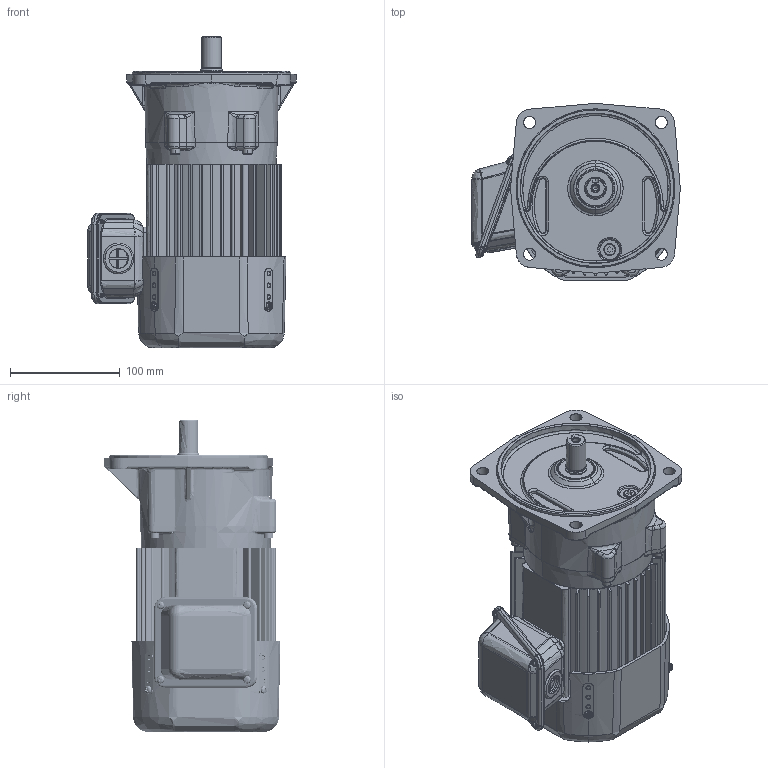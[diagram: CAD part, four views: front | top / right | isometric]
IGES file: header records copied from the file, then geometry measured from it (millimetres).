
Start section: SolidWorks IGES file using analytic representation for surfaces
Global section: file name: \\100.100.100.8\1_共有作業フォルダ\1-5_３Ｄデータ\solidworks\personal-folder\H.Nagayama\SGP1外形\P1(3D)\igs\TMFB2-02-(5~30).IGS; native system: SolidWorks 2018; preprocessor: SolidWorks 2018; author: sigma-giken; date: 200508.142129; units: millimetre
Bounding box: 190.5 x 161.5 x 284.6 mm (x, y, z)
Surface area: 410617.3 mm2 (no closed solid volume)
Topology: 0 solids, 0 shells, 1841 faces, 24109 edges, 24053 vertices
Faces by surface type: bspline 984, revolution 857
